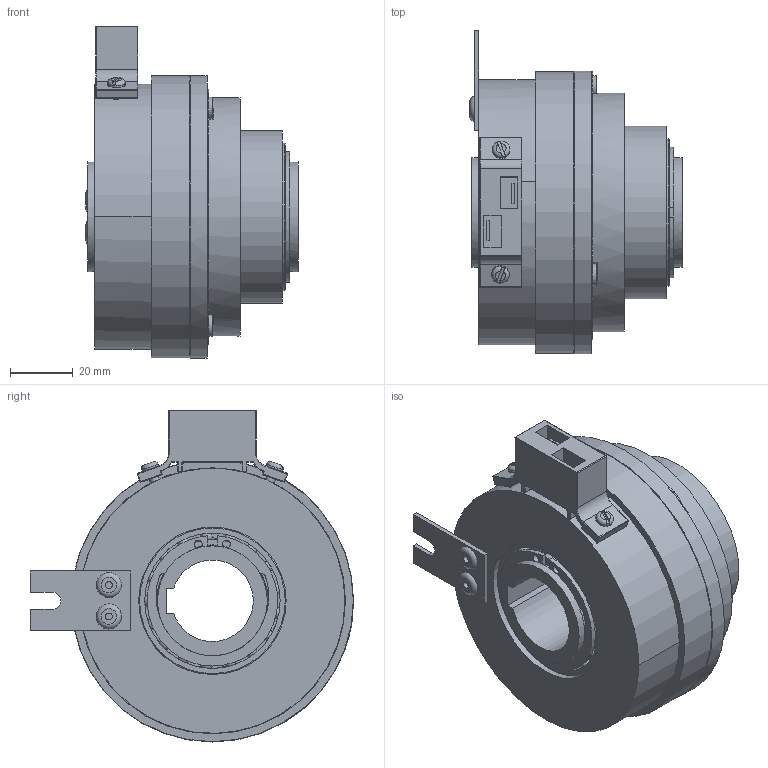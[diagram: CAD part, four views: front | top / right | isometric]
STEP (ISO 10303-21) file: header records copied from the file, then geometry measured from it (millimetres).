
FILE_DESCRIPTION(/* description */ (''),/* implementation_level */ '2;1');
FILE_NAME(/* name */ 'X:\INVENTOR\DISEGNI\08_Freni_Friz_Elettmag_Monodisco\08_26 EMSL_DF\EMSL_DF STEP\08_26_090_41 EMSL090_DF-R_S@STEP.stp',/* time_stamp */ '2018-04-24T09:45:56+02:00',/* author */ ('stefano'),/* organization */ (''),/* preprocessor_version */ 'ST-DEVELOPER v17',/* originating_system */ 'Autodesk Inventor 2018',/* authorisation */ '');
FILE_SCHEMA (('AUTOMOTIVE_DESIGN { 1 0 10303 214 3 1 1 }'));
Length unit declared in the file: millimetre
Products named in the file (1): 08_26_090_41 EMSL090_DF-R - Spina_Substitute_1
Bounding box: 67.6 x 103 x 105.8 mm (x, y, z)
Volume: 243102.9 mm3; surface area: 90311.4 mm2
Topology: 1 solids, 1 shells, 846 faces, 2836 edges, 1818 vertices
Faces by surface type: cylinder 286, plane 271, torus 178, sphere 92, cone 19
Full cylindrical faces by diameter (mm): 1.5 x3, 2.2 x2, 2.5 x8, 3 x2, 4.134 x6, 5.1 x9, 5.6 x2, 6 x1, 7 x3, 9.5 x3, 33 x1, 35 x5, 38.84 x8, 39 x3, 40 x1, 42 x1, 43.16 x8, 46.7 x1, 47 x8, 54 x1, 55 x1, 76 x1, 80 x1, 84.8 x1, 89.8 x1, 90 x1
Entity records: 37867 total; most frequent: CARTESIAN_POINT 12784, ORIENTED_EDGE 5354, DIRECTION 5276, EDGE_CURVE 2677, AXIS2_PLACEMENT_3D 2334, VERTEX_POINT 1818, CIRCLE 1487, EDGE_LOOP 1085
